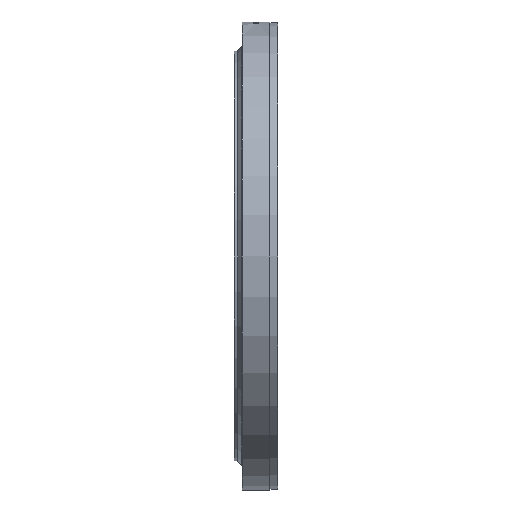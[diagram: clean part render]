
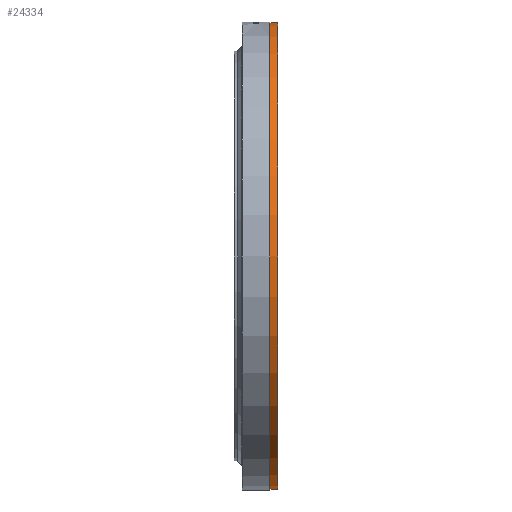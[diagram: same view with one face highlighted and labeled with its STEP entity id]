
A CAD part, left-side view. The second image highlights one B-rep face of the part: STEP entity #24334.
In plain terms, the highlighted cylindrical face has radius 309 mm (diameter 618 mm), a partial arc.
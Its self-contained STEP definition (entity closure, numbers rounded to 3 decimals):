
#1588 = CARTESIAN_POINT ( 'NONE',  ( 0., -0.866, 0. ) ) ;
#1865 = FACE_OUTER_BOUND ( 'NONE', #7899, .T. ) ;
#4655 = DIRECTION ( 'NONE',  ( 0., -1., 0. ) ) ;
#5367 = CARTESIAN_POINT ( 'NONE',  ( 0., 9.134, 309. ) ) ;
#6716 = ORIENTED_EDGE ( 'NONE', *, *, #18893, .F. ) ;
#7899 = EDGE_LOOP ( 'NONE', ( #16429, #15562, #12549, #6716 ) ) ;
#8005 = DIRECTION ( 'NONE',  ( 0., -1., 0. ) ) ;
#8205 = CIRCLE ( 'NONE', #11764, 309. ) ;
#8765 = EDGE_CURVE ( 'NONE', #19986, #26181, #11027, .T. ) ;
#10241 = VERTEX_POINT ( 'NONE', #24902 ) ;
#11027 = LINE ( 'NONE', #24068, #19823 ) ;
#11764 = AXIS2_PLACEMENT_3D ( 'NONE', #23511, #21425, #14890 ) ;
#12031 = DIRECTION ( 'NONE',  ( 0., 0., -1. ) ) ;
#12164 = CYLINDRICAL_SURFACE ( 'NONE', #25112, 309. ) ;
#12549 = ORIENTED_EDGE ( 'NONE', *, *, #15777, .T. ) ;
#12826 = VECTOR ( 'NONE', #24565, 1000. ) ;
#14821 = CIRCLE ( 'NONE', #25047, 309. ) ;
#14890 = DIRECTION ( 'NONE',  ( 0., 0., -1. ) ) ;
#15562 = ORIENTED_EDGE ( 'NONE', *, *, #19077, .T. ) ;
#15777 = EDGE_CURVE ( 'NONE', #22717, #10241, #24304, .T. ) ;
#16105 = CARTESIAN_POINT ( 'NONE',  ( 0., 0., -309. ) ) ;
#16128 = CARTESIAN_POINT ( 'NONE',  ( 0., -0.866, 309. ) ) ;
#16429 = ORIENTED_EDGE ( 'NONE', *, *, #8765, .F. ) ;
#16868 = CARTESIAN_POINT ( 'NONE',  ( 0., 0., 0. ) ) ;
#18893 = EDGE_CURVE ( 'NONE', #26181, #10241, #14821, .T. ) ;
#19077 = EDGE_CURVE ( 'NONE', #19986, #22717, #8205, .T. ) ;
#19823 = VECTOR ( 'NONE', #4655, 1000. ) ;
#19986 = VERTEX_POINT ( 'NONE', #5367 ) ;
#20603 = DIRECTION ( 'NONE',  ( 0., -1., 0. ) ) ;
#21425 = DIRECTION ( 'NONE',  ( 0., -1., 0. ) ) ;
#21461 = CARTESIAN_POINT ( 'NONE',  ( 0., 9.134, -309. ) ) ;
#22717 = VERTEX_POINT ( 'NONE', #21461 ) ;
#23511 = CARTESIAN_POINT ( 'NONE',  ( 0., 9.134, 0. ) ) ;
#24068 = CARTESIAN_POINT ( 'NONE',  ( 0., 0., 309. ) ) ;
#24304 = LINE ( 'NONE', #16105, #12826 ) ;
#24334 = ADVANCED_FACE ( 'NONE', ( #1865 ), #12164, .T. ) ;
#24565 = DIRECTION ( 'NONE',  ( 0., -1., 0. ) ) ;
#24902 = CARTESIAN_POINT ( 'NONE',  ( 0., -0.866, -309. ) ) ;
#25045 = DIRECTION ( 'NONE',  ( 0., 0., -1. ) ) ;
#25047 = AXIS2_PLACEMENT_3D ( 'NONE', #1588, #20603, #25045 ) ;
#25112 = AXIS2_PLACEMENT_3D ( 'NONE', #16868, #8005, #12031 ) ;
#26181 = VERTEX_POINT ( 'NONE', #16128 ) ;
